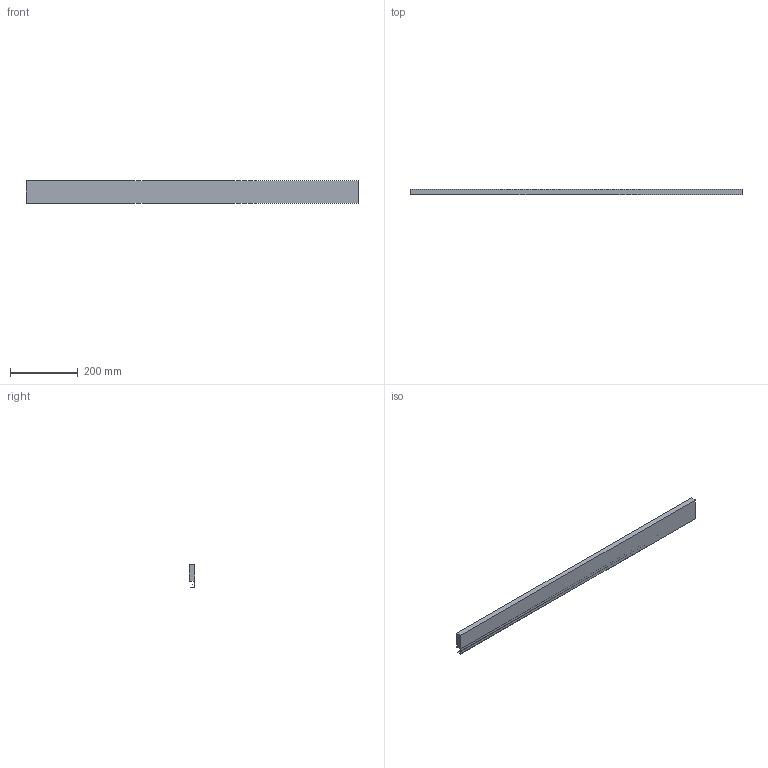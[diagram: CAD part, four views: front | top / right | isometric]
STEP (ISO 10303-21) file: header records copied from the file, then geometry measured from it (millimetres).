
FILE_DESCRIPTION (( 'STEP AP214' ), '1' );
FILE_NAME ('Innenschub-Blendenprofil_KAB1100_S16.step', '2010-09-23T12:26:53', ( 'grass' ), ( '' ), 'SwSTEP 2.0', 'SolidWorks 2010', '' );
FILE_SCHEMA (( 'AUTOMOTIVE_DESIGN' ));
Length unit declared in the file: millimetre
Products named in the file (1): Innenschub-Blendenprofil_KAB1100_S16
Bounding box: 977 x 15.9 x 67.6 mm (x, y, z)
Volume: 810110.2 mm3; surface area: 193380.4 mm2
Topology: 1 solids, 1 shells, 17 faces, 42 edges, 28 vertices
Faces by surface type: plane 15, cylinder 2
Entity records: 534 total; most frequent: CARTESIAN_POINT 88, ORIENTED_EDGE 84, DIRECTION 82, EDGE_CURVE 42, VECTOR 38, LINE 38, VERTEX_POINT 28, AXIS2_PLACEMENT_3D 22
